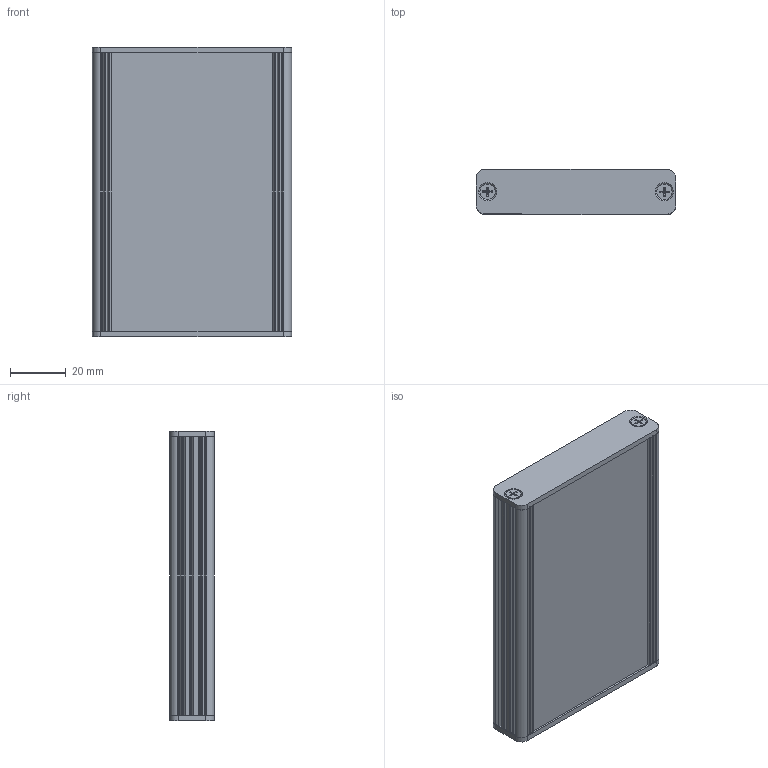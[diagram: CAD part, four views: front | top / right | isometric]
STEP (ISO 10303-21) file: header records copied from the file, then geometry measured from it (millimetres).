
FILE_DESCRIPTION((''),'2;1');
FILE_NAME('C:\Dokumente und Einstellungen\Lochen\Desktop\AKG\AKG_71_16_100.stp','2015-01-15T13:51:25',('Lochen'),(''),'Autodesk Inventor 2012','Autodesk Inventor 2012','');
FILE_SCHEMA(('AUTOMOTIVE_DESIGN { 1 0 10303 214 1 1 1 1 }'));
Length unit declared in the file: millimetre
Products named in the file (4): 001037222; 001032106; L0015SGD000008A; DIN EN ISO 7046-1 H M3 x 10 - 4.8 - H
Assembly tree (8 placements, depth 2):
  001037222
    001032106  x2
    L0015SGD000008A  x2
    DIN EN ISO 7046-1 H M3 x 10 - 4.8 - H  x4
Bounding box: 71.51 x 16.04 x 104 mm (x, y, z)
Volume: 32587.6 mm3; surface area: 44713.2 mm2
Topology: 8 solids, 8 shells, 342 faces, 950 edges, 624 vertices
Faces by surface type: plane 136, cylinder 134, cone 52, torus 20
Full cylindrical faces by diameter (mm): 2.693 x4, 3 x4, 3.4 x4, 5.5 x4
Entity records: 4760 total; most frequent: CARTESIAN_POINT 920, DIRECTION 817, ORIENTED_EDGE 766, EDGE_CURVE 383, AXIS2_PLACEMENT_3D 301, VERTEX_POINT 260, VECTOR 215, LINE 215
